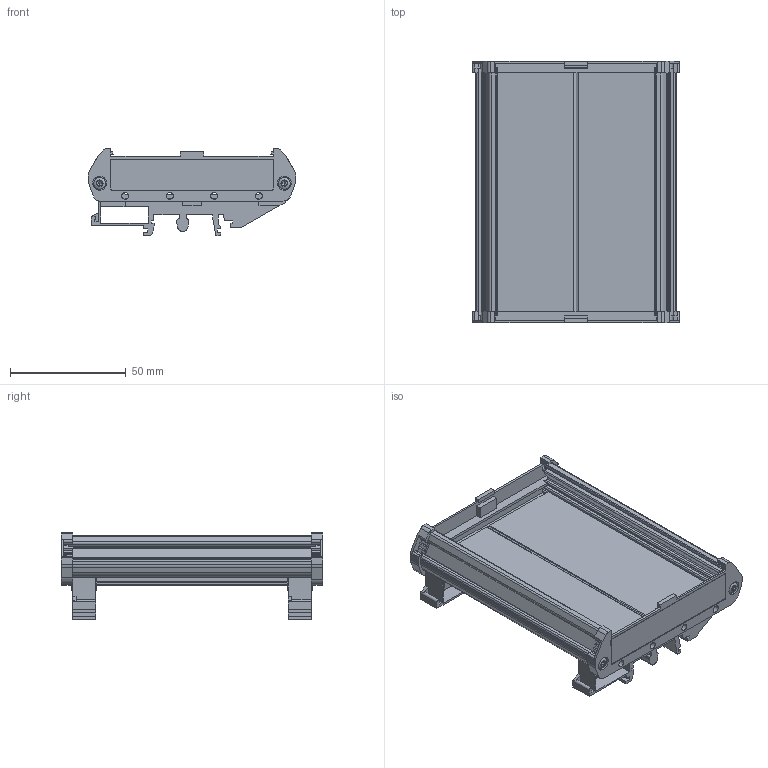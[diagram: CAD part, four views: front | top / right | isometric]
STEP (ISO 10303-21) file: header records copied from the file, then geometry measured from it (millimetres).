
FILE_DESCRIPTION(/* description */ (''),/* implementation_level */ '2;1');
FILE_NAME(/* name */ 'C:\Users\thijs\Desktop\Zilvertron\Phoenix\6000848\6000848.stp',/* time_stamp */ '2019-11-01T13:20:34+01:00',/* author */ ('thijs'),/* organization */ (''),/* preprocessor_version */ 'ST-DEVELOPER v18',/* originating_system */ 'Autodesk Inventor 2020',/* authorisation */ '');
FILE_SCHEMA (('AUTOMOTIVE_DESIGN { 1 0 10303 214 3 1 1 }'));
Length unit declared in the file: millimetre
Products named in the file (7): 4000206; pxc_2907583_00_UM-72-PROFIL_L=107; UM_72-PROFIL_H.L=107; pxc_2959337_01_UM-72-SE_3D; UM_72-SE_H.Select__00276902; Schr.Lins._3x14-Z_01151118; 39295
Assembly tree (9 placements, depth 3):
  4000206
    pxc_2907583_00_UM-72-PROFIL_L=107
      UM_72-PROFIL_H.L=107
    pxc_2959337_01_UM-72-SE_3D  x2
      UM_72-SE_H.Select__00276902
      Schr.Lins._3x14-Z_01151118
    39295  x2
Bounding box: 89.6 x 113 x 37.6 mm (x, y, z)
Volume: 56405.8 mm3; surface area: 57425.3 mm2
Topology: 9 solids, 9 shells, 1053 faces, 3131 edges, 2098 vertices
Faces by surface type: plane 672, cylinder 343, cone 20, bspline 10, sphere 4, torus 4
Full cylindrical faces by diameter (mm): 1.71 x36, 2.404 x4, 3 x10, 3.4 x4, 5.15 x4, 6 x4
Entity records: 20373 total; most frequent: CARTESIAN_POINT 5272, ORIENTED_EDGE 3200, DIRECTION 3086, EDGE_CURVE 1600, LINE 1128, VECTOR 1128, VERTEX_POINT 1072, AXIS2_PLACEMENT_3D 979
